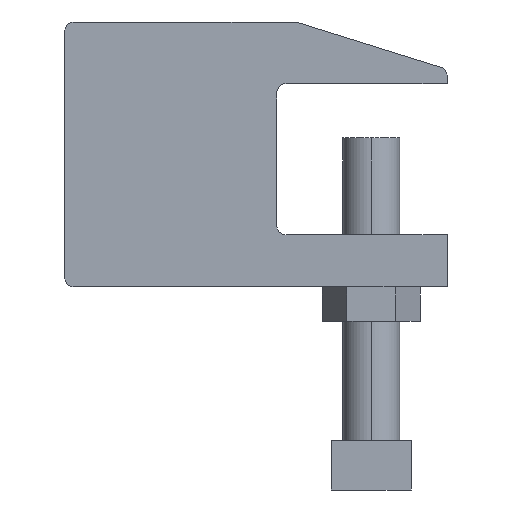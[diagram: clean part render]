
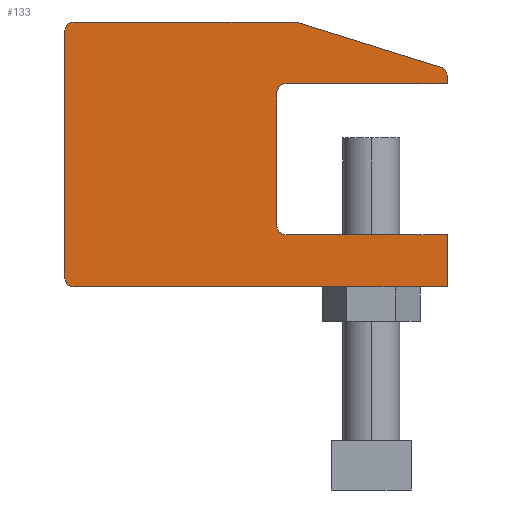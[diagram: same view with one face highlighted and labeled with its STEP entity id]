
A CAD part, front view. The second image highlights one B-rep face of the part: STEP entity #133.
In plain terms, the highlighted planar face has unit normal (0, -1, 0).
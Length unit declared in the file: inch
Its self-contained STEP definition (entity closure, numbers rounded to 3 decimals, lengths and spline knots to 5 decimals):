
#133=ADVANCED_FACE('',(#273),#274,.T.);
#273=FACE_OUTER_BOUND('',#502,.T.);
#274=PLANE('',#503);
#502=EDGE_LOOP('',(#778,#779,#780,#781,#782,#783,#784,#785,#786,#787,#788,#789,#790,#791,#792));
#503=AXIS2_PLACEMENT_3D('',#793,#794,#795);
#778=ORIENTED_EDGE('',*,*,#1007,.F.);
#779=ORIENTED_EDGE('',*,*,#1035,.F.);
#780=ORIENTED_EDGE('',*,*,#1077,.F.);
#781=ORIENTED_EDGE('',*,*,#998,.F.);
#782=ORIENTED_EDGE('',*,*,#989,.F.);
#783=ORIENTED_EDGE('',*,*,#994,.F.);
#784=ORIENTED_EDGE('',*,*,#1078,.F.);
#785=ORIENTED_EDGE('',*,*,#1068,.F.);
#786=ORIENTED_EDGE('',*,*,#1079,.F.);
#787=ORIENTED_EDGE('',*,*,#1019,.F.);
#788=ORIENTED_EDGE('',*,*,#974,.F.);
#789=ORIENTED_EDGE('',*,*,#1080,.F.);
#790=ORIENTED_EDGE('',*,*,#1073,.F.);
#791=ORIENTED_EDGE('',*,*,#1027,.F.);
#792=ORIENTED_EDGE('',*,*,#984,.F.);
#793=CARTESIAN_POINT('',(1.2129,0.,0.83441));
#794=DIRECTION('',(0.0,-1.0,0.0));
#795=DIRECTION('',(1.0,0.0,0.0));
#974=EDGE_CURVE('',#1132,#1133,#1134,.T.);
#984=EDGE_CURVE('',#1150,#1151,#1152,.T.);
#989=EDGE_CURVE('',#1159,#1160,#1161,.T.);
#994=EDGE_CURVE('',#1168,#1159,#1169,.T.);
#998=EDGE_CURVE('',#1160,#1174,#1175,.T.);
#1007=EDGE_CURVE('',#1189,#1150,#1190,.T.);
#1019=EDGE_CURVE('',#1133,#1211,#1212,.T.);
#1027=EDGE_CURVE('',#1151,#1223,#1224,.T.);
#1035=EDGE_CURVE('',#1235,#1189,#1236,.T.);
#1068=EDGE_CURVE('',#1286,#1287,#1288,.T.);
#1073=EDGE_CURVE('',#1223,#1295,#1296,.T.);
#1077=EDGE_CURVE('',#1174,#1235,#1301,.T.);
#1078=EDGE_CURVE('',#1287,#1168,#1302,.T.);
#1079=EDGE_CURVE('',#1211,#1286,#1303,.T.);
#1080=EDGE_CURVE('',#1295,#1132,#1304,.T.);
#1132=VERTEX_POINT('',#1364);
#1133=VERTEX_POINT('',#1365);
#1134=CIRCLE('',#1366,0.06251);
#1150=VERTEX_POINT('',#1392);
#1151=VERTEX_POINT('',#1393);
#1152=B_SPLINE_CURVE_WITH_KNOTS('',3,(#1394,#1395,#1396,#1397),.UNSPECIFIED.,.F.,.F.,(4,4),(-1.0,-0.0),.UNSPECIFIED.);
#1159=VERTEX_POINT('',#1409);
#1160=VERTEX_POINT('',#1410);
#1161=LINE('',#1411,#1412);
#1168=VERTEX_POINT('',#1422);
#1169=B_SPLINE_CURVE_WITH_KNOTS('',3,(#1423,#1424,#1425,#1426),.UNSPECIFIED.,.F.,.F.,(4,4),(-1.0,-0.0),.UNSPECIFIED.);
#1174=VERTEX_POINT('',#1435);
#1175=B_SPLINE_CURVE_WITH_KNOTS('',3,(#1436,#1437,#1438,#1439),.UNSPECIFIED.,.F.,.F.,(4,4),(-1.0,-0.0),.UNSPECIFIED.);
#1189=VERTEX_POINT('',#1461);
#1190=LINE('',#1462,#1463);
#1211=VERTEX_POINT('',#1510);
#1212=LINE('',#1511,#1512);
#1223=VERTEX_POINT('',#1528);
#1224=LINE('',#1529,#1530);
#1235=VERTEX_POINT('',#1550);
#1236=LINE('',#1551,#1552);
#1286=VERTEX_POINT('',#1638);
#1287=VERTEX_POINT('',#1639);
#1288=LINE('',#1640,#1641);
#1295=VERTEX_POINT('',#1651);
#1296=B_SPLINE_CURVE_WITH_KNOTS('',3,(#1652,#1653,#1654,#1655),.UNSPECIFIED.,.F.,.F.,(4,4),(-1.0,-0.0),.UNSPECIFIED.);
#1301=LINE('',#1664,#1665);
#1302=LINE('',#1666,#1667);
#1303=B_SPLINE_CURVE_WITH_KNOTS('',3,(#1668,#1669,#1670,#1671),.UNSPECIFIED.,.F.,.F.,(4,4),(-1.0,-0.0),.UNSPECIFIED.);
#1304=LINE('',#1672,#1673);
#1364=CARTESIAN_POINT('',(1.45249,0.,1.75));
#1365=CARTESIAN_POINT('',(1.47112,0.,1.74716));
#1366=AXIS2_PLACEMENT_3D('',#1772,#1773,#1774);
#1392=CARTESIAN_POINT('',(0.0,0.,0.));
#1393=CARTESIAN_POINT('',(-0.0625,0.,0.0625));
#1394=CARTESIAN_POINT('',(0.0,0.,0.));
#1395=CARTESIAN_POINT('',(-0.03452,0.,0.));
#1396=CARTESIAN_POINT('',(-0.0625,0.,0.02798));
#1397=CARTESIAN_POINT('',(-0.0625,0.,0.0625));
#1409=CARTESIAN_POINT('',(1.33702,0.,1.28125));
#1410=CARTESIAN_POINT('',(1.33702,0.,0.40625));
#1411=CARTESIAN_POINT('',(1.33702,0.,0.40625));
#1412=VECTOR('',#1784,1.0);
#1422=CARTESIAN_POINT('',(1.39952,0.,1.34375));
#1423=CARTESIAN_POINT('',(1.39952,0.,1.34375));
#1424=CARTESIAN_POINT('',(1.365,0.,1.34375));
#1425=CARTESIAN_POINT('',(1.33702,0.,1.31577));
#1426=CARTESIAN_POINT('',(1.33702,0.,1.28125));
#1435=CARTESIAN_POINT('',(1.39952,0.,0.34375));
#1436=CARTESIAN_POINT('',(1.33702,0.,0.40625));
#1437=CARTESIAN_POINT('',(1.33702,0.,0.37173));
#1438=CARTESIAN_POINT('',(1.365,0.,0.34375));
#1439=CARTESIAN_POINT('',(1.39952,0.,0.34375));
#1461=CARTESIAN_POINT('',(2.46202,0.,0.));
#1462=CARTESIAN_POINT('',(0.0,0.,0.));
#1463=VECTOR('',#1794,1.0);
#1510=CARTESIAN_POINT('',(2.41816,0.,1.45121));
#1511=CARTESIAN_POINT('',(2.41816,0.,1.45121));
#1512=VECTOR('',#1797,1.0);
#1528=CARTESIAN_POINT('',(-0.0625,0.,1.6875));
#1529=CARTESIAN_POINT('',(-0.0625,0.,1.6875));
#1530=VECTOR('',#1803,1.0);
#1550=CARTESIAN_POINT('',(2.46202,0.,0.34375));
#1551=CARTESIAN_POINT('',(2.46202,0.,0.));
#1552=VECTOR('',#1807,1.0);
#1638=CARTESIAN_POINT('',(2.46202,0.,1.39155));
#1639=CARTESIAN_POINT('',(2.46202,0.,1.34375));
#1640=CARTESIAN_POINT('',(2.46202,0.,1.34375));
#1641=VECTOR('',#1826,1.0);
#1651=CARTESIAN_POINT('',(0.0,0.,1.75));
#1652=CARTESIAN_POINT('',(-0.0625,0.,1.6875));
#1653=CARTESIAN_POINT('',(-0.0625,0.,1.72202));
#1654=CARTESIAN_POINT('',(-0.03452,0.,1.75));
#1655=CARTESIAN_POINT('',(0.0,0.,1.75));
#1664=CARTESIAN_POINT('',(2.46202,0.,0.34375));
#1665=VECTOR('',#1831,1.0);
#1666=CARTESIAN_POINT('',(1.39952,0.,1.34375));
#1667=VECTOR('',#1832,1.0);
#1668=CARTESIAN_POINT('',(2.41816,0.,1.45121));
#1669=CARTESIAN_POINT('',(2.44425,0.,1.44305));
#1670=CARTESIAN_POINT('',(2.46202,0.,1.41889));
#1671=CARTESIAN_POINT('',(2.46202,0.,1.39155));
#1672=CARTESIAN_POINT('',(1.45249,0.,1.75));
#1673=VECTOR('',#1833,1.0);
#1772=CARTESIAN_POINT('',(1.45249,0.,1.68749));
#1773=DIRECTION('',(-0.0,1.0,0.0));
#1774=DIRECTION('',(0.298,0.0,0.955));
#1784=DIRECTION('',(-0.0,0.0,-1.0));
#1794=DIRECTION('',(-1.0,0.0,-0.0));
#1797=DIRECTION('',(0.954,0.0,-0.298));
#1803=DIRECTION('',(0.0,0.0,1.0));
#1807=DIRECTION('',(-0.0,0.0,-1.0));
#1826=DIRECTION('',(-0.0,0.0,-1.0));
#1831=DIRECTION('',(1.0,0.0,0.0));
#1832=DIRECTION('',(-1.0,0.0,-0.0));
#1833=DIRECTION('',(1.0,0.0,0.0));
